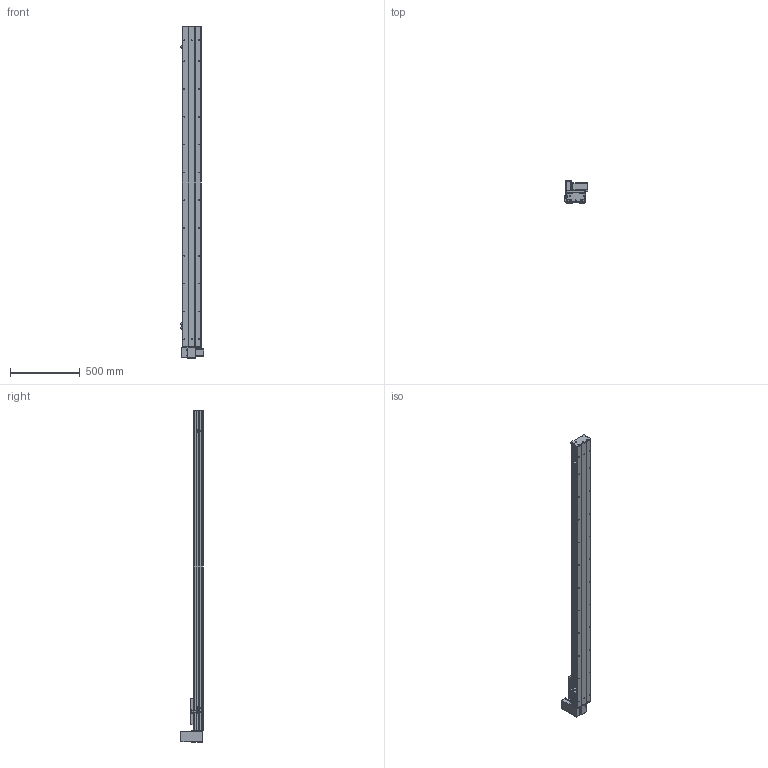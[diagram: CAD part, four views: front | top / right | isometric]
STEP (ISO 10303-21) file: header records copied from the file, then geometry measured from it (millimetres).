
FILE_DESCRIPTION (( 'STEP AP203' ), '1' );
FILE_NAME ('Y135CB-D90-S2000-UR-P400W.STEP', '2020-02-18T06:23:03', ( '微软用户' ), ( '微软中国' ), 'SwSTEP 2.0', 'SolidWorks 2017', '' );
FILE_SCHEMA (( 'CONFIG_CONTROL_DESIGN' ));
Length unit declared in the file: millimetre
Products named in the file (18): 5C--俋欶; C-雄赽釱--; 0B-萇儂楊擘啣; Y10B--々湍喘謫眊--666; san松下电机400不带刹车----; Y10B-耜蚾蟀諉啣----; Y135CB-耜裔; 5CB --掛极耜裔啣-; 00B-俋欶BM--; 135CB---遴掛极.-; C-詩湍揤踡え-陔; Y135CB-D90-S2000-UR-P400W; 35CB---喘謫眊楊擘啣; 135CB--詩湍-CE; 0B-埴倛裔啣; Y100-135俋离換覜ん--; 0B-源倛裔啣; Y135C-陔俋离換覜結え-
Assembly tree (21 placements, depth 2):
  Y135CB-D90-S2000-UR-P400W
    Y135CB-耜裔
    135CB---遴掛极.-
    35CB---喘謫眊楊擘啣
    0B-埴倛裔啣
    0B-源倛裔啣
    0B-萇儂楊擘啣
    san松下电机400不带刹车----
    5CB --掛极耜裔啣-  x2
    C-詩湍揤踡え-陔  x2
    135CB--詩湍-CE
    Y100-135俋离換覜ん--  x3
    Y135C-陔俋离換覜結え-
    5C--俋欶
    C-雄赽釱--
    Y10B--々湍喘謫眊--666
    Y10B-耜蚾蟀諉啣----
    00B-俋欶BM--
Bounding box: 167.5 x 158.7 x 2388 mm (x, y, z)
Volume: 6983363.9 mm3; surface area: 2758742.2 mm2
Topology: 21 solids, 21 shells, 965 faces, 2617 edges, 1734 vertices
Faces by surface type: cylinder 493, plane 456, cone 16
Entity records: 30359 total; most frequent: DIRECTION 5045, CARTESIAN_POINT 5032, ORIENTED_EDGE 4710, EDGE_CURVE 2355, AXIS2_PLACEMENT_3D 1847, VERTEX_POINT 1562, LINE 1351, VECTOR 1351
